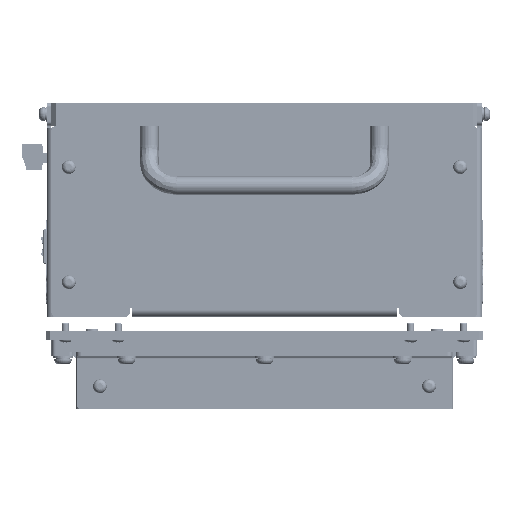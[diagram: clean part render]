
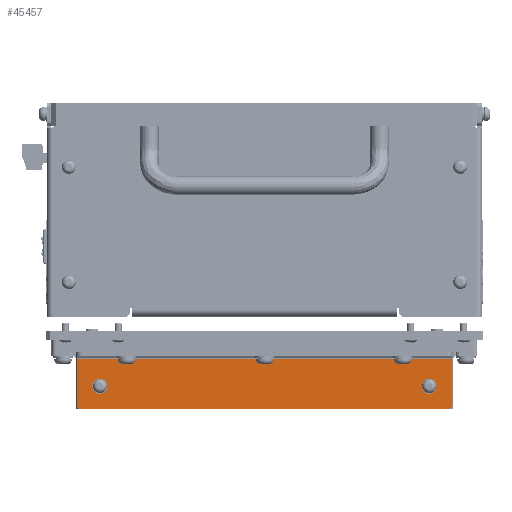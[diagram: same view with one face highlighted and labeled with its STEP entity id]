
A CAD part, left-side view. The second image highlights one B-rep face of the part: STEP entity #45457.
In plain terms, the highlighted planar face has unit normal (-1, 0, 0).
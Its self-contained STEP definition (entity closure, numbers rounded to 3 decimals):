
#1075 = DIRECTION ( 'NONE',  ( 0., -1., 0. ) ) ;
#4874 = ORIENTED_EDGE ( 'NONE', *, *, #110630, .F. ) ;
#12029 = DIRECTION ( 'NONE',  ( 0., -1., 0. ) ) ;
#12436 = CARTESIAN_POINT ( 'NONE',  ( -102., -81.5, -103.2 ) ) ;
#12472 = CARTESIAN_POINT ( 'NONE',  ( -102., -71.5, -118.2 ) ) ;
#15539 = CIRCLE ( 'NONE', #156390, 2. ) ;
#17124 = ORIENTED_EDGE ( 'NONE', *, *, #99487, .F. ) ;
#17829 = VECTOR ( 'NONE', #92600, 1000. ) ;
#21773 = VERTEX_POINT ( 'NONE', #135145 ) ;
#22129 = AXIS2_PLACEMENT_3D ( 'NONE', #76862, #191437, #93365 ) ;
#27792 = EDGE_LOOP ( 'NONE', ( #74161, #72432, #44539, #71356, #146005, #51854 ) ) ;
#27798 = VERTEX_POINT ( 'NONE', #28360 ) ;
#28360 = CARTESIAN_POINT ( 'NONE',  ( -102., 73.2, -118.2 ) ) ;
#28787 = DIRECTION ( 'NONE',  ( 0., 0., 1. ) ) ;
#28823 = DIRECTION ( 'NONE',  ( 0., 1., 0. ) ) ;
#29322 = CIRCLE ( 'NONE', #101393, 2. ) ;
#33477 = EDGE_CURVE ( 'NONE', #199426, #53652, #15539, .T. ) ;
#36489 = FACE_OUTER_BOUND ( 'NONE', #27792, .T. ) ;
#37027 = DIRECTION ( 'NONE',  ( 0., 0., -1. ) ) ;
#38829 = VERTEX_POINT ( 'NONE', #115838 ) ;
#39717 = DIRECTION ( 'NONE',  ( 0., -1., 0. ) ) ;
#39750 = DIRECTION ( 'NONE',  ( -1., 0., 0. ) ) ;
#39915 = CARTESIAN_POINT ( 'NONE',  ( -102., -79.5, -126.2 ) ) ;
#40182 = VECTOR ( 'NONE', #28787, 1000. ) ;
#43707 = DIRECTION ( 'NONE',  ( 0., -1., 0. ) ) ;
#44539 = ORIENTED_EDGE ( 'NONE', *, *, #143816, .T. ) ;
#45457 = ADVANCED_FACE ( 'NONE', ( #128985, #118717, #36489 ), #93784, .F. ) ;
#50896 = EDGE_CURVE ( 'NONE', #158360, #38829, #71817, .T. ) ;
#51041 = VERTEX_POINT ( 'NONE', #81887 ) ;
#51854 = ORIENTED_EDGE ( 'NONE', *, *, #55366, .T. ) ;
#53652 = VERTEX_POINT ( 'NONE', #143830 ) ;
#55366 = EDGE_CURVE ( 'NONE', #21773, #95139, #29322, .T. ) ;
#59894 = EDGE_CURVE ( 'NONE', #27798, #140766, #172328, .T. ) ;
#62542 = EDGE_CURVE ( 'NONE', #140766, #27798, #186748, .T. ) ;
#67253 = LINE ( 'NONE', #125568, #105705 ) ;
#71356 = ORIENTED_EDGE ( 'NONE', *, *, #50896, .F. ) ;
#71817 = LINE ( 'NONE', #190659, #17829 ) ;
#72432 = ORIENTED_EDGE ( 'NONE', *, *, #33477, .T. ) ;
#74161 = ORIENTED_EDGE ( 'NONE', *, *, #117166, .T. ) ;
#75504 = ORIENTED_EDGE ( 'NONE', *, *, #59894, .F. ) ;
#76862 = CARTESIAN_POINT ( 'NONE',  ( -102., 71.5, -118.2 ) ) ;
#77274 = CARTESIAN_POINT ( 'NONE',  ( -102., 0., -115.7 ) ) ;
#78742 = LINE ( 'NONE', #12436, #40182 ) ;
#81887 = CARTESIAN_POINT ( 'NONE',  ( -102., -73.2, -118.2 ) ) ;
#86402 = AXIS2_PLACEMENT_3D ( 'NONE', #12472, #127218, #28823 ) ;
#87932 = VECTOR ( 'NONE', #37027, 1000. ) ;
#89169 = CARTESIAN_POINT ( 'NONE',  ( -102., -71.5, -118.2 ) ) ;
#89428 = CARTESIAN_POINT ( 'NONE',  ( -102., 69.8, -118.2 ) ) ;
#91739 = CARTESIAN_POINT ( 'NONE',  ( -102., 79.5, -128.2 ) ) ;
#92600 = DIRECTION ( 'NONE',  ( 0., -1., 0. ) ) ;
#93365 = DIRECTION ( 'NONE',  ( 0., 1., 0. ) ) ;
#93784 = PLANE ( 'NONE',  #198857 ) ;
#94213 = CARTESIAN_POINT ( 'NONE',  ( -102., -79.5, -128.2 ) ) ;
#95139 = VERTEX_POINT ( 'NONE', #91739 ) ;
#95693 = CARTESIAN_POINT ( 'NONE',  ( -102., 71.5, -118.2 ) ) ;
#99251 = DIRECTION ( 'NONE',  ( -1., 0., 0. ) ) ;
#99487 = EDGE_CURVE ( 'NONE', #127483, #51041, #186271, .T. ) ;
#101393 = AXIS2_PLACEMENT_3D ( 'NONE', #197328, #99251, #1075 ) ;
#102326 = CARTESIAN_POINT ( 'NONE',  ( -102., 81.5, -106.2 ) ) ;
#105611 = DIRECTION ( 'NONE',  ( 0., 1., 0. ) ) ;
#105705 = VECTOR ( 'NONE', #43707, 1000. ) ;
#110291 = DIRECTION ( 'NONE',  ( 1., 0., 0. ) ) ;
#110630 = EDGE_CURVE ( 'NONE', #51041, #127483, #207706, .T. ) ;
#112235 = DIRECTION ( 'NONE',  ( 0., 1., 0. ) ) ;
#115838 = CARTESIAN_POINT ( 'NONE',  ( -102., -81.5, -106.2 ) ) ;
#117166 = EDGE_CURVE ( 'NONE', #95139, #199426, #67253, .T. ) ;
#117699 = EDGE_LOOP ( 'NONE', ( #75504, #155373 ) ) ;
#118184 = CARTESIAN_POINT ( 'NONE',  ( -102., -69.8, -118.2 ) ) ;
#118717 = FACE_BOUND ( 'NONE', #117699, .T. ) ;
#122144 = EDGE_LOOP ( 'NONE', ( #17124, #4874 ) ) ;
#125568 = CARTESIAN_POINT ( 'NONE',  ( -102., -81.5, -128.2 ) ) ;
#127218 = DIRECTION ( 'NONE',  ( -1., 0., 0. ) ) ;
#127483 = VERTEX_POINT ( 'NONE', #118184 ) ;
#128985 = FACE_BOUND ( 'NONE', #122144, .T. ) ;
#135145 = CARTESIAN_POINT ( 'NONE',  ( -102., 81.5, -126.2 ) ) ;
#135349 = CARTESIAN_POINT ( 'NONE',  ( -102., 81.5, -103.2 ) ) ;
#140766 = VERTEX_POINT ( 'NONE', #89428 ) ;
#141333 = AXIS2_PLACEMENT_3D ( 'NONE', #89169, #203583, #105611 ) ;
#143816 = EDGE_CURVE ( 'NONE', #53652, #38829, #78742, .T. ) ;
#143830 = CARTESIAN_POINT ( 'NONE',  ( -102., -81.5, -126.2 ) ) ;
#146005 = ORIENTED_EDGE ( 'NONE', *, *, #155606, .T. ) ;
#155373 = ORIENTED_EDGE ( 'NONE', *, *, #62542, .F. ) ;
#155606 = EDGE_CURVE ( 'NONE', #158360, #21773, #167692, .T. ) ;
#156390 = AXIS2_PLACEMENT_3D ( 'NONE', #39915, #39750, #39717 ) ;
#158360 = VERTEX_POINT ( 'NONE', #102326 ) ;
#167692 = LINE ( 'NONE', #135349, #87932 ) ;
#172328 = CIRCLE ( 'NONE', #22129, 1.7 ) ;
#180486 = AXIS2_PLACEMENT_3D ( 'NONE', #95693, #210145, #112235 ) ;
#186271 = CIRCLE ( 'NONE', #86402, 1.7 ) ;
#186748 = CIRCLE ( 'NONE', #180486, 1.7 ) ;
#190659 = CARTESIAN_POINT ( 'NONE',  ( -102., 81.5, -106.2 ) ) ;
#191437 = DIRECTION ( 'NONE',  ( -1., 0., 0. ) ) ;
#197328 = CARTESIAN_POINT ( 'NONE',  ( -102., 79.5, -126.2 ) ) ;
#198857 = AXIS2_PLACEMENT_3D ( 'NONE', #77274, #110291, #12029 ) ;
#199426 = VERTEX_POINT ( 'NONE', #94213 ) ;
#203583 = DIRECTION ( 'NONE',  ( -1., 0., 0. ) ) ;
#207706 = CIRCLE ( 'NONE', #141333, 1.7 ) ;
#210145 = DIRECTION ( 'NONE',  ( -1., 0., 0. ) ) ;
